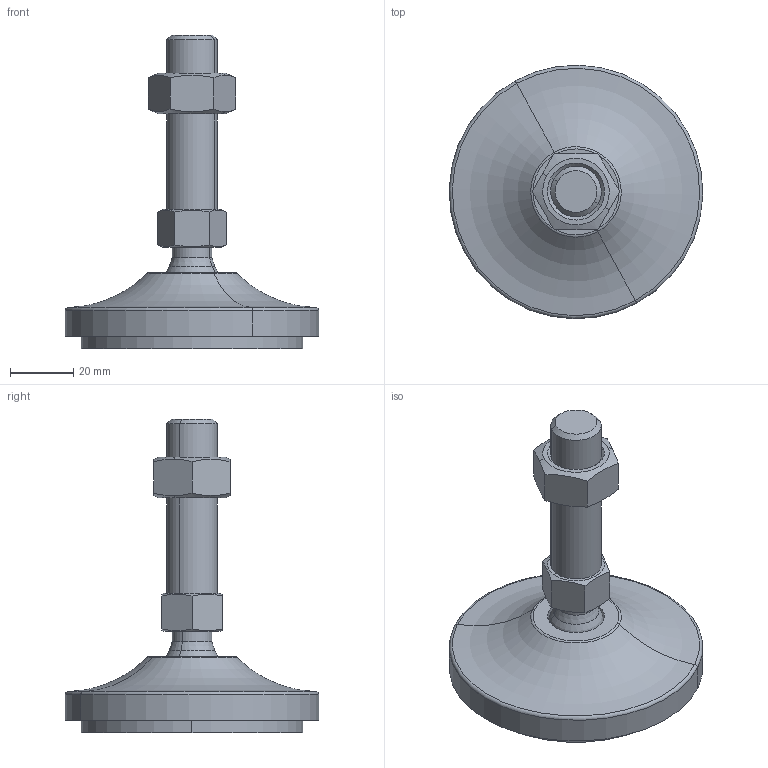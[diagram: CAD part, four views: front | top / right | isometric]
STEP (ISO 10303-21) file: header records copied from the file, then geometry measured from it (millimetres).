
FILE_DESCRIPTION(('CATIA V5 STEP Exchange'),'2;1');
FILE_NAME('C:\Users\ALI OZGUN\Desktop\alhan\saplama2\560801610AV.stp','2017-09-21T10:30:28+00:00',('none'),('none'),'CATIA Version 5 Release 21 GA (IN-10)','CATIA V5 STEP AP203','none');
FILE_SCHEMA(('CONFIG_CONTROL_DESIGN'));
Length unit declared in the file: millimetre
Products named in the file (1): 560801610AV
Bounding box: 79.98 x 79.98 x 99 mm (x, y, z)
Volume: 97610 mm3; surface area: 30846.2 mm2
Topology: 4 solids, 4 shells, 64 faces, 142 edges, 87 vertices
Faces by surface type: plane 22, cylinder 16, cone 16, torus 6, revolution 2, sphere 2
Entity records: 1931 total; most frequent: CARTESIAN_POINT 623, ORIENTED_EDGE 280, DIRECTION 198, EDGE_CURVE 140, AXIS2_PLACEMENT_3D 107, VERTEX_POINT 87, EDGE_LOOP 71, ADVANCED_FACE 64
